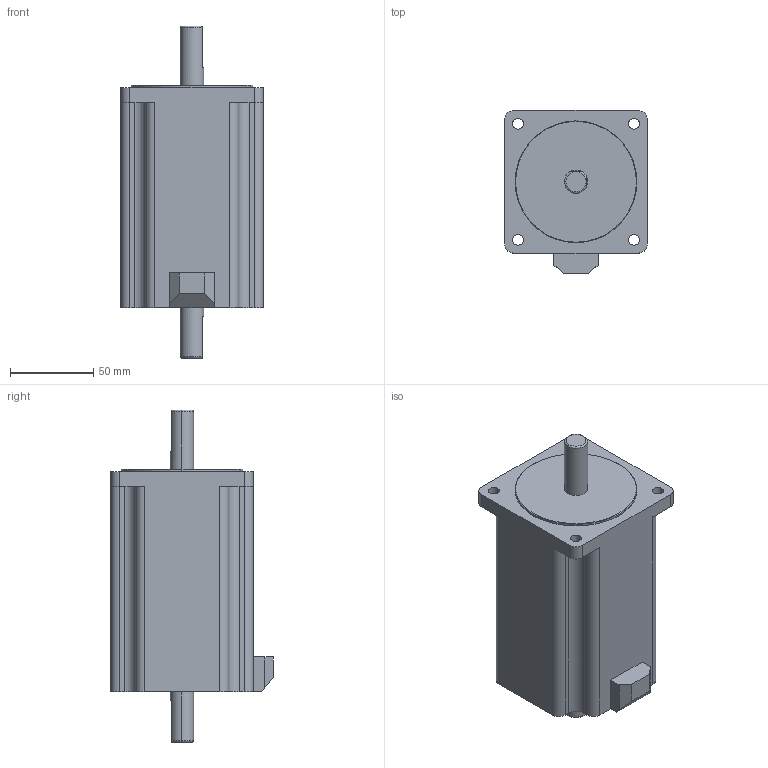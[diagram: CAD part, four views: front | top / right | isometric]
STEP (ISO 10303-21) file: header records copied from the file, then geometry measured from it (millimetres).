
FILE_DESCRIPTION (( 'STEP AP203' ), '1' );
FILE_NAME ('PMSA-B86D5HD_3D.STEP', '2016-12-02T04:30:24', ( 'user01' ), ( '' ), 'SwSTEP 2.0', 'SolidWorks 2014', '' );
FILE_SCHEMA (( 'CONFIG_CONTROL_DESIGN' ));
Length unit declared in the file: millimetre
Products named in the file (1): PMSA-B86D5HD_3D
Bounding box: 85.5 x 97.5 x 199 mm (x, y, z)
Volume: 875715.7 mm3; surface area: 62068.8 mm2
Topology: 1 solids, 2 shells, 80 faces, 213 edges, 140 vertices
Faces by surface type: plane 38, cylinder 32, torus 6, cone 4
Entity records: 2706 total; most frequent: CARTESIAN_POINT 546, DIRECTION 453, ORIENTED_EDGE 426, EDGE_CURVE 213, AXIS2_PLACEMENT_3D 167, VERTEX_POINT 140, LINE 119, VECTOR 119
